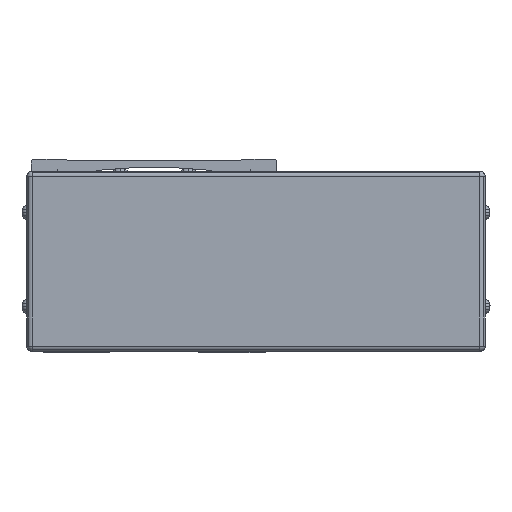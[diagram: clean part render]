
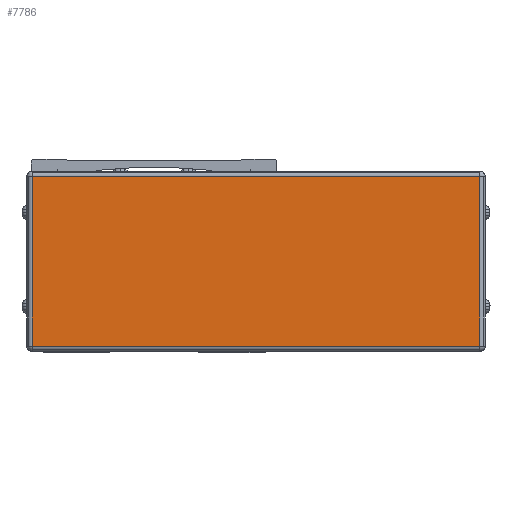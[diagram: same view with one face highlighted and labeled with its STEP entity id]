
A CAD part, front view. The second image highlights one B-rep face of the part: STEP entity #7786.
In plain terms, the highlighted planar face has unit normal (0, -1, 0).
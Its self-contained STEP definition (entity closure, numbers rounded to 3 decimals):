
#7786=ADVANCED_FACE('',(#15682),#15683,.T.);
#15682=FACE_OUTER_BOUND('',#25237,.T.);
#15683=PLANE('',#25238);
#25237=EDGE_LOOP('',(#47939,#47940,#47941,#47942));
#25238=AXIS2_PLACEMENT_3D('',#47943,#47944,#47945);
#47939=ORIENTED_EDGE('',*,*,#56281,.F.);
#47940=ORIENTED_EDGE('',*,*,#56418,.F.);
#47941=ORIENTED_EDGE('',*,*,#49843,.F.);
#47942=ORIENTED_EDGE('',*,*,#56612,.F.);
#47943=CARTESIAN_POINT('',(39.,-338.778,-42.5));
#47944=DIRECTION('',(0.0,-1.0,0.0));
#47945=DIRECTION('',(1.0,0.0,0.0));
#49843=EDGE_CURVE('',#60055,#60057,#60058,.T.);
#56281=EDGE_CURVE('',#69467,#69088,#69471,.T.);
#56418=EDGE_CURVE('',#60057,#69467,#69628,.T.);
#56612=EDGE_CURVE('',#69088,#60055,#69839,.T.);
#60055=VERTEX_POINT('',#74817);
#60057=VERTEX_POINT('',#74819);
#60058=LINE('',#74820,#74821);
#69088=VERTEX_POINT('',#87960);
#69467=VERTEX_POINT('',#88560);
#69471=LINE('',#88564,#88565);
#69628=LINE('',#88858,#88859);
#69839=LINE('',#89165,#89166);
#74817=CARTESIAN_POINT('',(-46.7,-338.778,24.5));
#74819=CARTESIAN_POINT('',(124.7,-338.778,24.5));
#74820=CARTESIAN_POINT('',(39.,-338.778,24.5));
#74821=VECTOR('',#92072,10.0);
#87960=CARTESIAN_POINT('',(-46.7,-338.778,-40.5));
#88560=CARTESIAN_POINT('',(124.7,-338.778,-40.5));
#88564=CARTESIAN_POINT('',(39.,-338.778,-40.5));
#88565=VECTOR('',#99601,10.0);
#88858=CARTESIAN_POINT('',(124.7,-338.778,-42.5));
#88859=VECTOR('',#99699,10.0);
#89165=CARTESIAN_POINT('',(-46.7,-338.778,-42.5));
#89166=VECTOR('',#99829,10.0);
#92072=DIRECTION('',(1.0,0.0,0.0));
#99601=DIRECTION('',(-1.0,0.0,0.0));
#99699=DIRECTION('',(0.0,0.0,-1.0));
#99829=DIRECTION('',(0.0,0.0,1.0));
